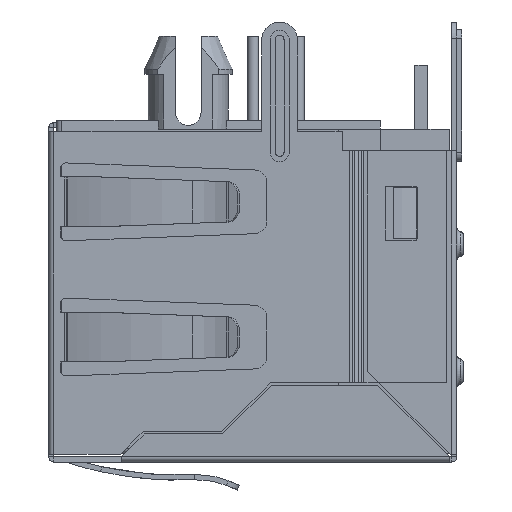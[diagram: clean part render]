
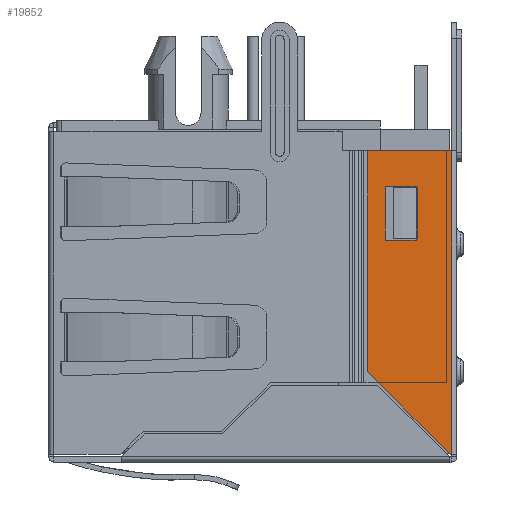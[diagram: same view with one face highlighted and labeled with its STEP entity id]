
A CAD part, left-side view. The second image highlights one B-rep face of the part: STEP entity #19852.
In plain terms, the highlighted planar face has unit normal (-1, 0, 0).
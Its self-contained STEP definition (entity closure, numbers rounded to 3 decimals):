
#2888=DIRECTION('',(0.,0.,-1.));
#2889=VECTOR('',#2888,11.9);
#2890=CARTESIAN_POINT('',(-31.9,-7.8,12.2));
#2891=LINE('',#2890,#2889);
#5723=DIRECTION('',(0.,1.,0.));
#5724=VECTOR('',#5723,0.059);
#5725=CARTESIAN_POINT('',(-31.9,-7.8,0.3));
#5726=LINE('',#5725,#5724);
#5727=DIRECTION('',(0.,0.707,0.707));
#5728=VECTOR('',#5727,4.584);
#5729=CARTESIAN_POINT('',(-31.9,-7.741,0.3));
#5730=LINE('',#5729,#5728);
#5731=DIRECTION('',(0.,0.,1.));
#5732=VECTOR('',#5731,8.659);
#5733=CARTESIAN_POINT('',(-31.9,-4.5,3.541));
#5734=LINE('',#5733,#5732);
#5735=DIRECTION('',(0.,-1.,0.));
#5736=VECTOR('',#5735,3.3);
#5737=CARTESIAN_POINT('',(-31.9,-4.5,12.2));
#5738=LINE('',#5737,#5736);
#5739=DIRECTION('',(0.,0.,1.));
#5740=VECTOR('',#5739,2.1);
#5741=CARTESIAN_POINT('',(-31.9,-6.4,8.7));
#5742=LINE('',#5741,#5740);
#5743=DIRECTION('',(0.,1.,0.));
#5744=VECTOR('',#5743,1.2);
#5745=CARTESIAN_POINT('',(-31.9,-6.4,10.8));
#5746=LINE('',#5745,#5744);
#5747=DIRECTION('',(0.,0.,-1.));
#5748=VECTOR('',#5747,2.1);
#5749=CARTESIAN_POINT('',(-31.9,-5.2,10.8));
#5750=LINE('',#5749,#5748);
#5751=DIRECTION('',(0.,-1.,0.));
#5752=VECTOR('',#5751,1.2);
#5753=CARTESIAN_POINT('',(-31.9,-5.2,8.7));
#5754=LINE('',#5753,#5752);
#10109=CARTESIAN_POINT('',(-31.9,-4.5,3.541));
#10110=CARTESIAN_POINT('',(-31.9,-4.5,12.2));
#10111=VERTEX_POINT('',#10109);
#10112=VERTEX_POINT('',#10110);
#10113=CARTESIAN_POINT('',(-31.9,-7.8,12.2));
#10114=VERTEX_POINT('',#10113);
#10217=CARTESIAN_POINT('',(-31.9,-7.8,0.3));
#10218=CARTESIAN_POINT('',(-31.9,-7.741,0.3));
#10219=VERTEX_POINT('',#10217);
#10220=VERTEX_POINT('',#10218);
#10237=CARTESIAN_POINT('',(-31.9,-6.4,8.7));
#10238=CARTESIAN_POINT('',(-31.9,-6.4,10.8));
#10239=VERTEX_POINT('',#10237);
#10240=VERTEX_POINT('',#10238);
#10241=CARTESIAN_POINT('',(-31.9,-5.2,10.8));
#10242=VERTEX_POINT('',#10241);
#10243=CARTESIAN_POINT('',(-31.9,-5.2,8.7));
#10244=VERTEX_POINT('',#10243);
#19827=CARTESIAN_POINT('',(-31.9,-8.,3.051));
#19828=DIRECTION('',(1.,0.,0.));
#19829=DIRECTION('',(0.,0.,-1.));
#19830=AXIS2_PLACEMENT_3D('',#19827,#19828,#19829);
#19831=PLANE('',#19830);
#19832=ORIENTED_EDGE('',*,*,#19817,.T.);
#19834=ORIENTED_EDGE('',*,*,#19833,.T.);
#19836=ORIENTED_EDGE('',*,*,#19835,.T.);
#19838=ORIENTED_EDGE('',*,*,#19837,.T.);
#19839=ORIENTED_EDGE('',*,*,#15196,.T.);
#19840=EDGE_LOOP('',(#19832,#19834,#19836,#19838,#19839));
#19841=FACE_OUTER_BOUND('',#19840,.F.);
#19843=ORIENTED_EDGE('',*,*,#19842,.T.);
#19845=ORIENTED_EDGE('',*,*,#19844,.T.);
#19847=ORIENTED_EDGE('',*,*,#19846,.T.);
#19849=ORIENTED_EDGE('',*,*,#19848,.T.);
#19850=EDGE_LOOP('',(#19843,#19845,#19847,#19849));
#19851=FACE_BOUND('',#19850,.F.);
#19852=ADVANCED_FACE('',(#19841,#19851),#19831,.F.);
#15196=EDGE_CURVE('',#10114,#10219,#2891,.T.);
#19817=EDGE_CURVE('',#10219,#10220,#5726,.T.);
#19833=EDGE_CURVE('',#10220,#10111,#5730,.T.);
#19835=EDGE_CURVE('',#10111,#10112,#5734,.T.);
#19837=EDGE_CURVE('',#10112,#10114,#5738,.T.);
#19842=EDGE_CURVE('',#10239,#10240,#5742,.T.);
#19844=EDGE_CURVE('',#10240,#10242,#5746,.T.);
#19846=EDGE_CURVE('',#10242,#10244,#5750,.T.);
#19848=EDGE_CURVE('',#10244,#10239,#5754,.T.);
